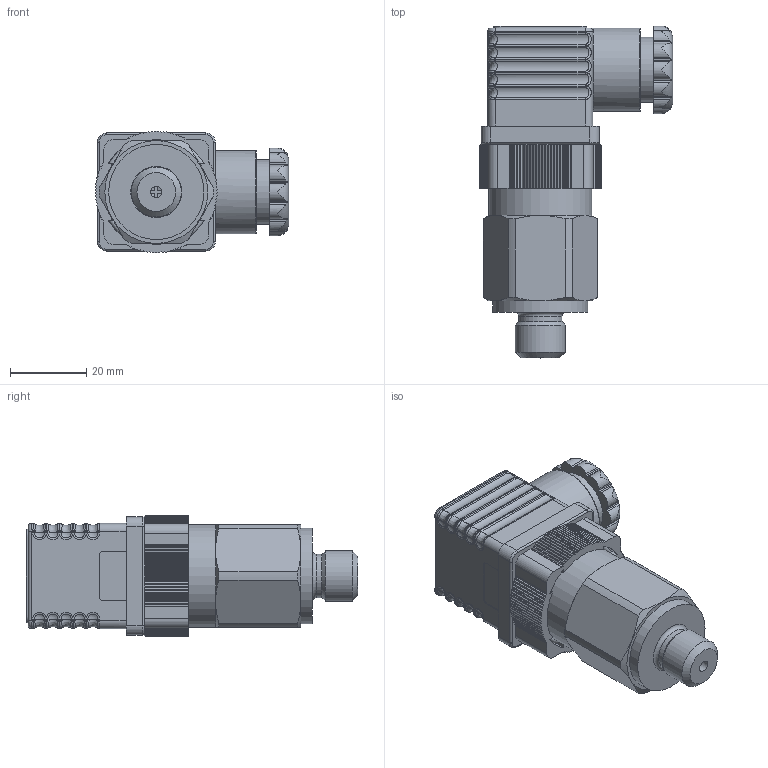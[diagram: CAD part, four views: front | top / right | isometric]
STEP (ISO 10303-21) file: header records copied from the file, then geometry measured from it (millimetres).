
FILE_DESCRIPTION (( 'STEP AP214' ), '1' );
FILE_NAME ('38.STEP', '2025-04-24T07:18:00', ( '' ), ( '' ), 'SwSTEP 2.0', 'SolidWorks 2019', '' );
FILE_SCHEMA (( 'AUTOMOTIVE_DESIGN' ));
Length unit declared in the file: millimetre
Products named in the file (1): 38
Bounding box: 50.75 x 87.15 x 32 mm (x, y, z)
Surface area: 14741.8 mm2 (no closed solid volume)
Topology: 0 solids, 7 shells, 616 faces, 1804 edges, 1153 vertices
Faces by surface type: plane 267, cylinder 210, bspline 84, torus 31, cone 14, sphere 10
Full cylindrical faces by diameter (mm): 3 x1, 5.25 x1, 7 x1, 11 x1, 11.4 x1, 13.157 x1, 17 x1, 21.9 x1, 25 x1, 27 x1, 29.3 x1
Entity records: 29886 total; most frequent: CARTESIAN_POINT 7543, ORIENTED_EDGE 3318, DIRECTION 3085, EDGE_CURVE 1773, VERTEX_POINT 1145, AXIS2_PLACEMENT_3D 1057, VECTOR 971, LINE 971
